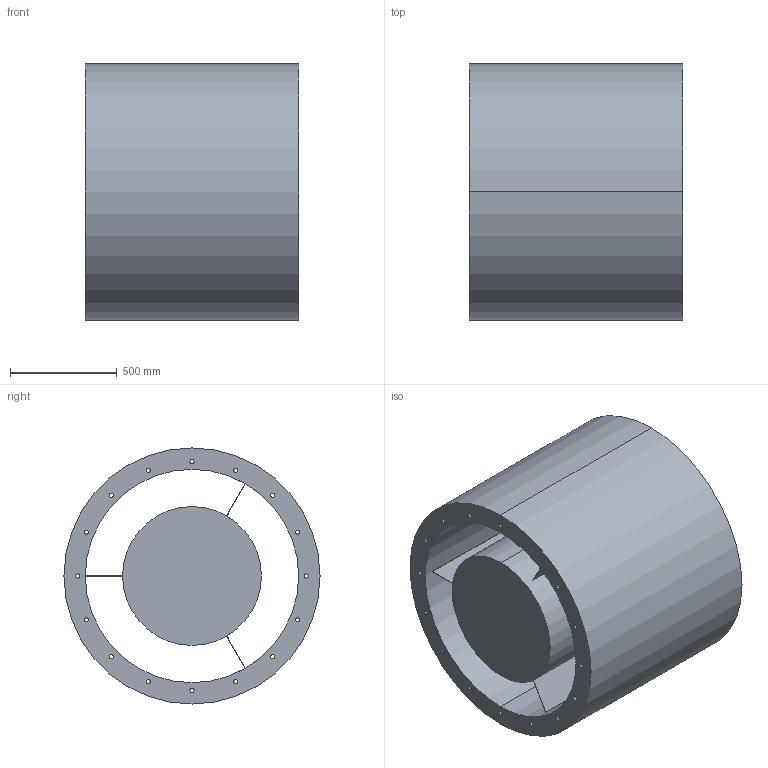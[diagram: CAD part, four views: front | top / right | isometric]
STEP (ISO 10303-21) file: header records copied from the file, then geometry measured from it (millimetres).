
FILE_DESCRIPTION(('STEP AP214'),'1');
FILE_NAME('accessory_5211815900.stp','2017-10-09T11:38:15',('TraceParts'),('TraceParts S.A.'),'Spatial InterOp 3D',' ',' ');
FILE_SCHEMA(('automotive_design'));
Length unit declared in the file: millimetre
Products named in the file (1): accessory_5211815900
Bounding box: 1000 x 1200 x 1200 mm (x, y, z)
Volume: 620374028.5 mm3; surface area: 11468220.3 mm2
Topology: 1 solids, 1 shells, 56 faces, 155 edges, 103 vertices
Faces by surface type: cylinder 38, plane 16, torus 2
Entity records: 2384 total; most frequent: DIRECTION 362, CARTESIAN_POINT 315, ORIENTED_EDGE 310, EDGE_CURVE 155, AXIS2_PLACEMENT_3D 150, VERTEX_POINT 103, EDGE_LOOP 96, CIRCLE 93
